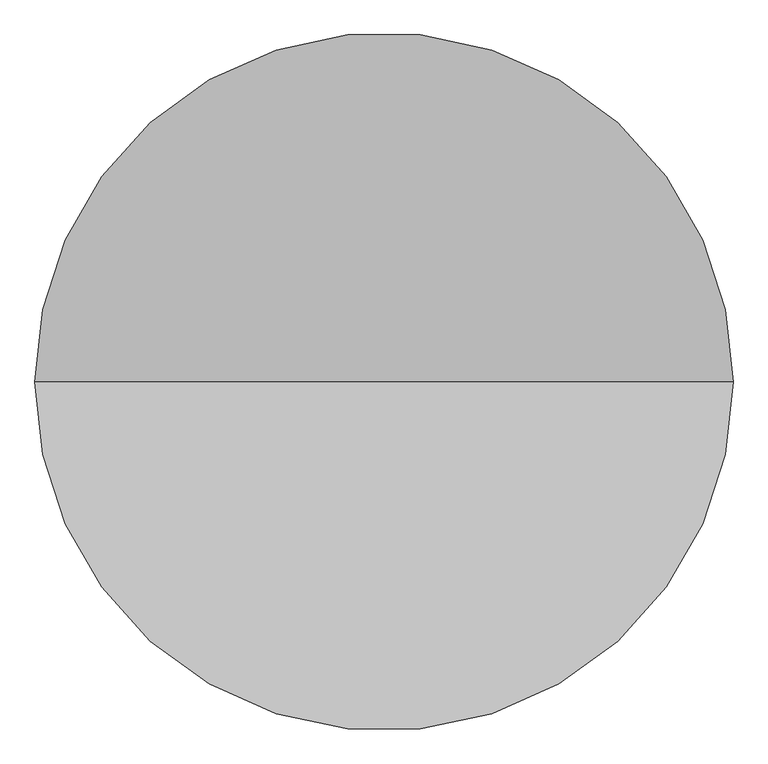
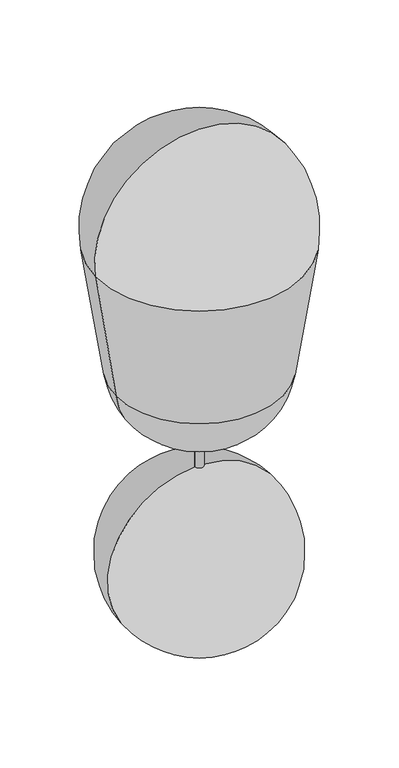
"""IFC4 building model written with IfcOpenShell, lengths in millimetres: geographic element geometry, Strauch Klein : Strauch Klein."""

from ifc_helpers import new_model, si_unit, point, frame, origin, place, context, project, spatial, polyline, circle_curve, ellipse_curve, trimmed, source, transform, mapped, element, save
from ifc_brep_helpers import cylinder_surface, revolved_surface, advanced_brep


def geographic_element_b5b1bfca(model_context):
    return source(origin(), model_context, "Body", "AdvancedBrep", [
        advanced_brep(
        [(0.0, 0.0, 2507.0), (-729.1321872, 0.0, 1659.8490014), (729.1321872, 0.0, 1659.8490014), (-29.4941176, 0.0, -0.672964), (0.0, 0.0, -1293.3170588), (29.4941176, 0.0, -0.672964), (-29.4941176, 0.0, 177.1451212), (29.4941176, 0.0, 177.1451212), (-299.4872776, 0.0, 315.7102203), (299.4872776, 0.0, 315.7102203), (-587.7721294, 0.0, 721.1241227), (587.7721294, 0.0, 721.1241227)],
        [
            (0, 1, circle_curve(frame((0.0, 0.0, 1769.6470588), z_axis=(0.0, -1.0, 0.0), x_axis=(-1.0, 0.0, 0.0)), 737.3529412)),
            (1, 2, circle_curve(frame((0.0, 0.0, 1659.8490014), z_axis=(0.0, 0.0, 1.0), x_axis=(1.0, 0.0, 0.0)), 729.1321872)),
            (2, 0, circle_curve(frame((0.0, 0.0, 1769.6470588), z_axis=(0.0, -1.0, 0.0), x_axis=(1.0, 0.0, 0.0)), 737.3529412)),
            (2, 1, circle_curve(frame((0.0, 0.0, 1659.8490014), z_axis=(0.0, 0.0, 1.0), x_axis=(1.0, 0.0, 0.0)), 729.1321872)),
            (3, 4, circle_curve(frame((0.0, 0.0, -646.6585294), z_axis=(0.0, -1.0, 0.0), x_axis=(-1.0, 0.0, 0.0)), 646.6585294)),
            (4, 5, circle_curve(frame((0.0, 0.0, -646.6585294), z_axis=(0.0, -1.0, 0.0), x_axis=(1.0, 0.0, 0.0)), 646.6585294)),
            (5, 3, circle_curve(frame((0.0, 0.0, -0.672964), z_axis=(0.0, 0.0, -1.0), x_axis=(1.0, 0.0, 0.0)), 29.4941176)),
            (3, 5, circle_curve(frame((0.0, 0.0, -0.672964), z_axis=(0.0, 0.0, -1.0), x_axis=(1.0, 0.0, 0.0)), 29.4941176)),
            (6, 3),
            (5, 7),
            (7, 6, circle_curve(frame((0.0, 0.0, 177.1451212), z_axis=(0.0, 0.0, -1.0), x_axis=(1.0, 0.0, 0.0)), 29.4941176)),
            (6, 7, circle_curve(frame((0.0, 0.0, 177.1451212), z_axis=(0.0, 0.0, -1.0), x_axis=(1.0, 0.0, 0.0)), 29.4941176)),
            (8, 6),
            (7, 9),
            (9, 8, circle_curve(frame((0.0, 0.0, 315.7102203), z_axis=(0.0, 0.0, -1.0), x_axis=(1.0, 0.0, 0.0)), 299.4872776)),
            (8, 9, circle_curve(frame((0.0, 0.0, 315.7102203), z_axis=(0.0, 0.0, -1.0), x_axis=(1.0, 0.0, 0.0)), 299.4872776)),
            (10, 8, circle_curve(frame((-52.8382547, 0.0, 796.3041759), z_axis=(0.0, -1.0, 0.0), x_axis=(-1.0, 0.0, 0.0)), 540.1909761)),
            (9, 11, circle_curve(frame((52.8382547, 0.0, 796.3041759), z_axis=(0.0, -1.0, 0.0), x_axis=(1.0, 0.0, 0.0)), 540.1909761)),
            (11, 10, circle_curve(frame((0.0, 0.0, 721.1241227), z_axis=(0.0, 0.0, -1.0), x_axis=(1.0, 0.0, 0.0)), 587.7721294)),
            (10, 11, circle_curve(frame((0.0, 0.0, 721.1241227), z_axis=(0.0, 0.0, -1.0), x_axis=(1.0, 0.0, 0.0)), 587.7721294)),
            (1, 10),
            (11, 2),
        ],
        [
            revolved_surface(trimmed(ellipse_curve(frame((0.0, 0.0, 1769.6470588), z_axis=(0.0, -1.0, 0.0), x_axis=(1.0, 0.0, 0.0)), 737.3529412, 737.3529412), [point((729.1321872, 0.0, 1659.8490014))], [point((0.0, 0.0, 2507.0))], True, "CARTESIAN"), (0.0, 0.0, 17000.0), (0.0, 0.0, 1.0)),
            revolved_surface(trimmed(ellipse_curve(frame((0.0, 0.0, -646.6585294), z_axis=(0.0, -1.0, 0.0), x_axis=(1.0, 0.0, 0.0)), 646.6585294, 646.6585294), [point((0.0, 0.0, -1293.3170588))], [point((29.4941176, 0.0, -0.672964))], True, "CARTESIAN"), (0.0, 0.0, 17000.0), (0.0, 0.0, 1.0)),
            cylinder_surface(frame((0.0, 0.0, 17000.0), z_axis=(0.0, 0.0, 1.0), x_axis=(1.0, 0.0, 0.0)), 29.4941176),
            revolved_surface(polyline([(29.4941176, 0.0, 177.1451212), (299.4872776, 0.0, 315.7102203)]), (0.0, 0.0, 17000.0), (0.0, 0.0, 1.0)),
            revolved_surface(trimmed(ellipse_curve(frame((52.8382547, 0.0, 796.3041759), z_axis=(0.0, -1.0, 0.0), x_axis=(1.0, 0.0, 0.0)), 540.1909761, 540.1909761), [point((299.4872776, 0.0, 315.7102203))], [point((587.7721294, 0.0, 721.1241227))], True, "CARTESIAN"), (0.0, 0.0, 17000.0), (0.0, 0.0, 1.0)),
            revolved_surface(polyline([(587.7721294, 0.0, 721.1241227), (729.1321872, 0.0, 1659.8490014)]), (0.0, 0.0, 17000.0), (0.0, 0.0, 1.0)),
        ],
        [
            (0, [[1, 2, 3]]),
            (0, [[-3, 4, -1]]),
            (1, [[5, 6, 7]]),
            (1, [[-6, -5, 8]]),
            (2, [[9, -7, 10, 11]]),
            (2, [[-10, -8, -9, 12]]),
            (3, [[13, -11, 14, 15]]),
            (3, [[-14, -12, -13, 16]]),
            (4, [[17, -15, 18, 19]]),
            (4, [[-18, -16, -17, 20]]),
            (5, [[21, -19, 22, -2]]),
            (5, [[-22, -20, -21, -4]]),
        ],
    ),
    ])


if __name__ == "__main__":
    model = new_model("IFC4")
    model_context = context("Model", 3, world=origin())
    ifc_project = project(units=[si_unit("LENGTHUNIT", "METRE", prefix="MILLI")], contexts=[model_context])
    site = spatial("IfcSite", under=ifc_project)
    building = spatial("IfcBuilding", under=site)
    placement = place(None, origin())
    geographic_element_shape = geographic_element_b5b1bfca(model_context)
    element("IfcGeographicElement", 1, ObjectType="Strauch Klein : Strauch Klein", at=placement, inside=building, context=model_context, shape_type="MappedRepresentation", body=[
        mapped(geographic_element_shape, transform((0.0, 0.0, 0.0), x_axis=(1.0, 0.0, 0.0), y_axis=(0.0, 1.0, 0.0), z_axis=(0.0, 0.0, 1.0))),
    ])
    save(model, "model.ifc")
